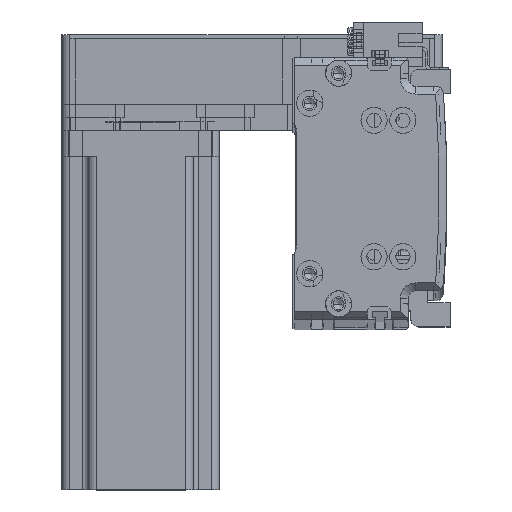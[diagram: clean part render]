
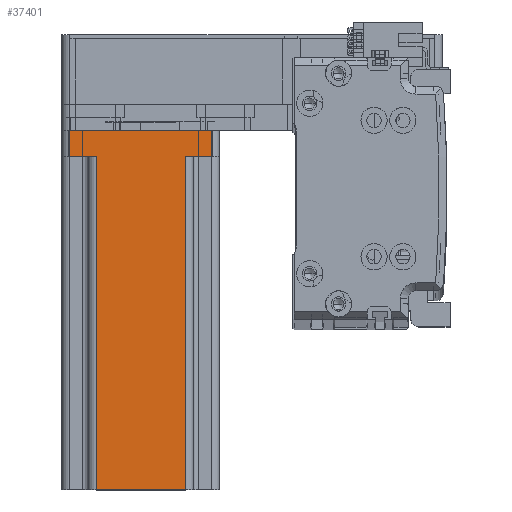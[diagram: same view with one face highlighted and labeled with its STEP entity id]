
A CAD part, top view. The second image highlights one B-rep face of the part: STEP entity #37401.
In plain terms, the highlighted planar face has unit normal (0, 0, 1) as drawn and (0, -1, 0) by its records, which use the part's own axes.
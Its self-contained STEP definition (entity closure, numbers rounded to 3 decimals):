
#161 = CARTESIAN_POINT ( 'NONE',  ( 30., -30., 137. ) ) ;
#808 = CARTESIAN_POINT ( 'NONE',  ( 30., -30., 137. ) ) ;
#1545 = VECTOR ( 'NONE', #44007, 1000. ) ;
#1936 = VECTOR ( 'NONE', #56308, 1000. ) ;
#2494 = DIRECTION ( 'NONE',  ( -1., 0., 0. ) ) ;
#2732 = VECTOR ( 'NONE', #23718, 1000. ) ;
#3376 = ORIENTED_EDGE ( 'NONE', *, *, #15888, .T. ) ;
#5517 = DIRECTION ( 'NONE',  ( -1., 0., 0. ) ) ;
#11316 = EDGE_CURVE ( 'NONE', #26337, #58490, #67195, .T. ) ;
#11607 = VECTOR ( 'NONE', #51612, 1000. ) ;
#13038 = ORIENTED_EDGE ( 'NONE', *, *, #29889, .T. ) ;
#14266 = CARTESIAN_POINT ( 'NONE',  ( -17., -30., 137. ) ) ;
#14585 = EDGE_CURVE ( 'NONE', #30441, #53154, #16963, .T. ) ;
#15888 = EDGE_CURVE ( 'NONE', #60600, #54817, #52532, .T. ) ;
#16963 = LINE ( 'NONE', #61081, #2732 ) ;
#19612 = ORIENTED_EDGE ( 'NONE', *, *, #55889, .F. ) ;
#19810 = CARTESIAN_POINT ( 'NONE',  ( 30., -30., 0. ) ) ;
#20275 = CARTESIAN_POINT ( 'NONE',  ( -17., -30., 137. ) ) ;
#21394 = VECTOR ( 'NONE', #67124, 1000. ) ;
#23210 = CARTESIAN_POINT ( 'NONE',  ( 17., -30., 137. ) ) ;
#23718 = DIRECTION ( 'NONE',  ( 0., 0., 1. ) ) ;
#24606 = VECTOR ( 'NONE', #27023, 1000. ) ;
#26337 = VERTEX_POINT ( 'NONE', #50414 ) ;
#27023 = DIRECTION ( 'NONE',  ( 0., 0., -1. ) ) ;
#27494 = EDGE_CURVE ( 'NONE', #60600, #30784, #29961, .T. ) ;
#29782 = LINE ( 'NONE', #61351, #58979 ) ;
#29889 = EDGE_CURVE ( 'NONE', #58490, #30441, #39753, .T. ) ;
#29961 = LINE ( 'NONE', #808, #1545 ) ;
#30115 = DIRECTION ( 'NONE',  ( 1., 0., 0. ) ) ;
#30441 = VERTEX_POINT ( 'NONE', #40555 ) ;
#30784 = VERTEX_POINT ( 'NONE', #23210 ) ;
#30829 = FACE_OUTER_BOUND ( 'NONE', #36990, .T. ) ;
#33881 = ORIENTED_EDGE ( 'NONE', *, *, #14585, .T. ) ;
#34940 = VERTEX_POINT ( 'NONE', #43514 ) ;
#35598 = CARTESIAN_POINT ( 'NONE',  ( -20., -30., 10. ) ) ;
#35812 = EDGE_CURVE ( 'NONE', #53154, #34940, #29782, .T. ) ;
#36990 = EDGE_LOOP ( 'NONE', ( #60765, #3376, #19612, #48034, #13038, #33881, #50478, #61065 ) ) ;
#37401 = ADVANCED_FACE ( 'NONE', ( #30829 ), #48013, .F. ) ;
#37545 = AXIS2_PLACEMENT_3D ( 'NONE', #161, #37562, #5517 ) ;
#37562 = DIRECTION ( 'NONE',  ( 0., 1., 0. ) ) ;
#39753 = LINE ( 'NONE', #19810, #52203 ) ;
#40555 = CARTESIAN_POINT ( 'NONE',  ( 27., -30., 0. ) ) ;
#42699 = CARTESIAN_POINT ( 'NONE',  ( 27., -30., 10. ) ) ;
#42913 = LINE ( 'NONE', #35598, #1936 ) ;
#43514 = CARTESIAN_POINT ( 'NONE',  ( 17., -30., 10. ) ) ;
#44007 = DIRECTION ( 'NONE',  ( 1., 0., 0. ) ) ;
#48013 = PLANE ( 'NONE',  #37545 ) ;
#48034 = ORIENTED_EDGE ( 'NONE', *, *, #11316, .T. ) ;
#50414 = CARTESIAN_POINT ( 'NONE',  ( -27., -30., 10. ) ) ;
#50478 = ORIENTED_EDGE ( 'NONE', *, *, #35812, .T. ) ;
#50791 = CARTESIAN_POINT ( 'NONE',  ( 17., -30., 137. ) ) ;
#51612 = DIRECTION ( 'NONE',  ( 0., 0., -1. ) ) ;
#51877 = CARTESIAN_POINT ( 'NONE',  ( -27., -30., 0. ) ) ;
#52203 = VECTOR ( 'NONE', #30115, 1000. ) ;
#52532 = LINE ( 'NONE', #14266, #11607 ) ;
#53154 = VERTEX_POINT ( 'NONE', #42699 ) ;
#54817 = VERTEX_POINT ( 'NONE', #66289 ) ;
#55889 = EDGE_CURVE ( 'NONE', #26337, #54817, #42913, .T. ) ;
#56308 = DIRECTION ( 'NONE',  ( 1., 0., 0. ) ) ;
#58490 = VERTEX_POINT ( 'NONE', #51877 ) ;
#58979 = VECTOR ( 'NONE', #2494, 1000. ) ;
#58992 = CARTESIAN_POINT ( 'NONE',  ( -27., -30., 137. ) ) ;
#60600 = VERTEX_POINT ( 'NONE', #20275 ) ;
#60765 = ORIENTED_EDGE ( 'NONE', *, *, #27494, .F. ) ;
#61065 = ORIENTED_EDGE ( 'NONE', *, *, #65035, .T. ) ;
#61081 = CARTESIAN_POINT ( 'NONE',  ( 27., -30., 137. ) ) ;
#61351 = CARTESIAN_POINT ( 'NONE',  ( 20., -30., 10. ) ) ;
#64014 = LINE ( 'NONE', #50791, #21394 ) ;
#65035 = EDGE_CURVE ( 'NONE', #34940, #30784, #64014, .T. ) ;
#66289 = CARTESIAN_POINT ( 'NONE',  ( -17., -30., 10. ) ) ;
#67124 = DIRECTION ( 'NONE',  ( 0., 0., 1. ) ) ;
#67195 = LINE ( 'NONE', #58992, #24606 ) ;
